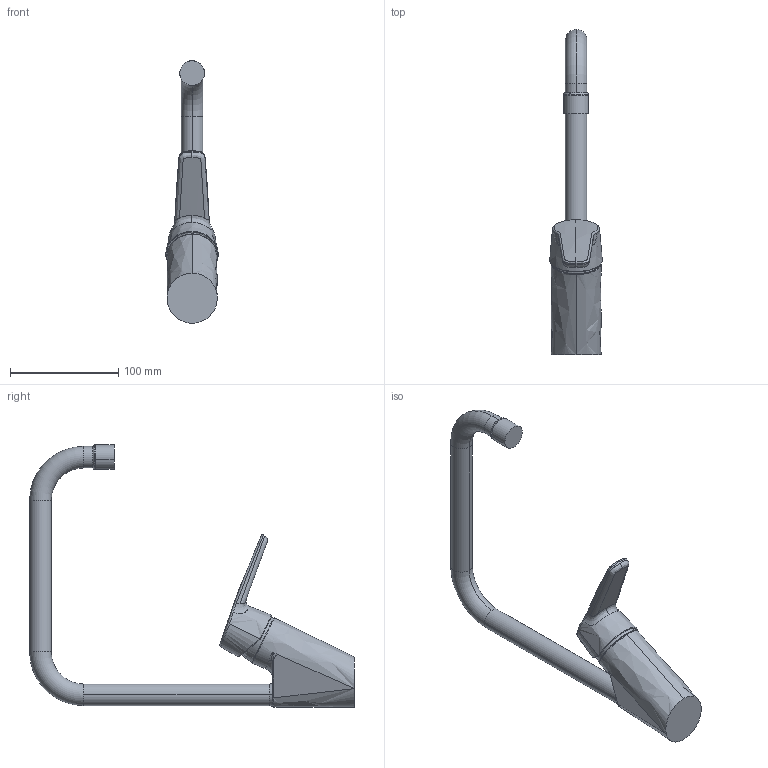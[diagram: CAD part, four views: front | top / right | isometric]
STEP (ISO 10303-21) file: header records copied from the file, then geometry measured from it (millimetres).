
FILE_DESCRIPTION (( 'STEP AP203' ), '1' );
FILE_NAME ('1523F-104(2022)+1523F-106(2022).STEP', '2022-02-22T10:25:44', ( '' ), ( '' ), 'SwSTEP 2.0', 'SolidWorks 2016', '' );
FILE_SCHEMA (( 'CONFIG_CONTROL_DESIGN' ));
Length unit declared in the file: millimetre
Products named in the file (1): 1523F-104(2022)+1523F-106(2022)
Bounding box: 48.62 x 300.7 x 243 mm (x, y, z)
Volume: 317005.9 mm3; surface area: 93567.8 mm2
Topology: 7 solids, 7 shells, 101 faces, 254 edges, 168 vertices
Faces by surface type: bspline 44, cylinder 21, plane 17, torus 12, cone 7
Entity records: 19175 total; most frequent: CARTESIAN_POINT 17031, ORIENTED_EDGE 508, DIRECTION 308, EDGE_CURVE 254, VERTEX_POINT 168, AXIS2_PLACEMENT_3D 136, B_SPLINE_CURVE_WITH_KNOTS 135, EDGE_LOOP 104
